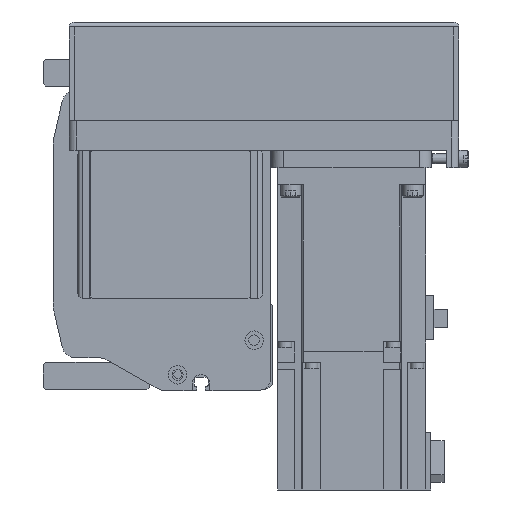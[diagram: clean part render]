
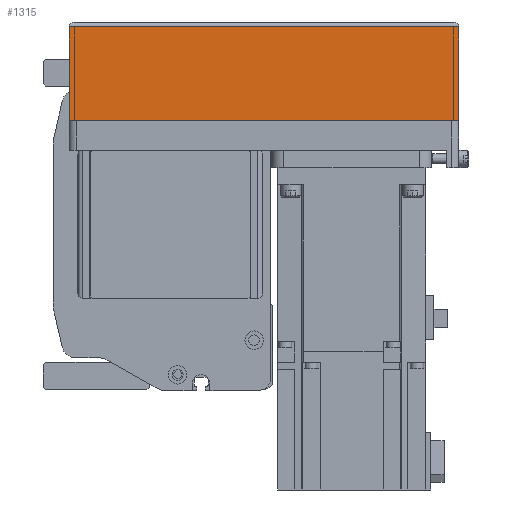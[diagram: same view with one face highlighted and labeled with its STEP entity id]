
A CAD part, left-side view. The second image highlights one B-rep face of the part: STEP entity #1315.
In plain terms, the highlighted planar face has unit normal (-1, 0, 0) as drawn and (0, -1, 0) by its records, which use the part's own axes.
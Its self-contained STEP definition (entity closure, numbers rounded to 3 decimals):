
#1315 = ADVANCED_FACE( '', ( #3534 ), #3535, .T. );
#3534 = FACE_OUTER_BOUND( '', #6976, .T. );
#3535 = PLANE( '', #6977 );
#6976 = EDGE_LOOP( '', ( #10732, #10733, #10734, #10735 ) );
#6977 = AXIS2_PLACEMENT_3D( '', #10736, #10737, #10738 );
#10732 = ORIENTED_EDGE( '', *, *, #19768, .F. );
#10733 = ORIENTED_EDGE( '', *, *, #19769, .F. );
#10734 = ORIENTED_EDGE( '', *, *, #19770, .T. );
#10735 = ORIENTED_EDGE( '', *, *, #19771, .T. );
#10736 = CARTESIAN_POINT( '', ( -158., -39., -12.1 ) );
#10737 = DIRECTION( '', ( 0., -1., 0. ) );
#10738 = DIRECTION( '', ( 0., 0., -1. ) );
#19768 = EDGE_CURVE( '', #23610, #23611, #23612, .T. );
#19769 = EDGE_CURVE( '', #23613, #23610, #23614, .T. );
#19770 = EDGE_CURVE( '', #23613, #23615, #23616, .T. );
#19771 = EDGE_CURVE( '', #23615, #23611, #23617, .T. );
#23610 = VERTEX_POINT( '', #29190 );
#23611 = VERTEX_POINT( '', #29191 );
#23612 = LINE( '', #29192, #29193 );
#23613 = VERTEX_POINT( '', #29194 );
#23614 = LINE( '', #29195, #29196 );
#23615 = VERTEX_POINT( '', #29197 );
#23616 = LINE( '', #29198, #29199 );
#23617 = LINE( '', #29200, #29201 );
#29190 = CARTESIAN_POINT( '', ( 0., -39., -12.1 ) );
#29191 = CARTESIAN_POINT( '', ( 0., -39., -50. ) );
#29192 = CARTESIAN_POINT( '', ( 0., -39., -12.1 ) );
#29193 = VECTOR( '', #36813, 1000. );
#29194 = CARTESIAN_POINT( '', ( -158., -39., -12.1 ) );
#29195 = CARTESIAN_POINT( '', ( -158., -39., -12.1 ) );
#29196 = VECTOR( '', #36814, 1000. );
#29197 = CARTESIAN_POINT( '', ( -158., -39., -50. ) );
#29198 = CARTESIAN_POINT( '', ( -158., -39., -12.1 ) );
#29199 = VECTOR( '', #36815, 1000. );
#29200 = CARTESIAN_POINT( '', ( -158., -39., -50. ) );
#29201 = VECTOR( '', #36816, 1000. );
#36813 = DIRECTION( '', ( 0., 0., -1. ) );
#36814 = DIRECTION( '', ( 1., 0., 0. ) );
#36815 = DIRECTION( '', ( 0., 0., -1. ) );
#36816 = DIRECTION( '', ( 1., 0., 0. ) );
